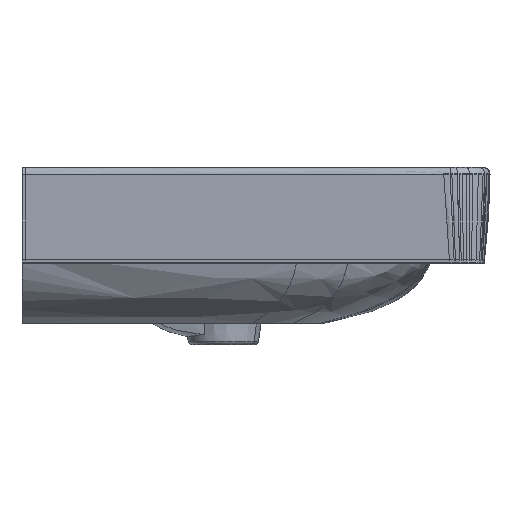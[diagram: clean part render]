
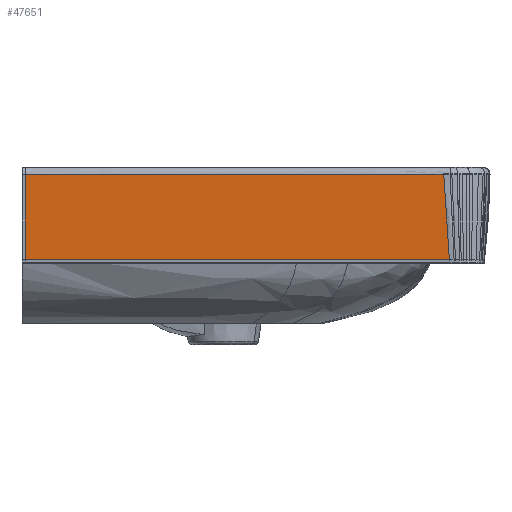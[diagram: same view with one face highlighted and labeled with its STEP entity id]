
A CAD part, left-side view. The second image highlights one B-rep face of the part: STEP entity #47651.
In plain terms, the highlighted free-form (B-spline) face has degree [5, 1] with [6, 2] control points.
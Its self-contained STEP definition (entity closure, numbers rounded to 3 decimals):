
#45217=CARTESIAN_POINT('Vertex',(-299.969,-3.033,-6.991)) ;
#45276=CARTESIAN_POINT('Vertex',(-294.652,-3.033,-91.423)) ;
#45280=CARTESIAN_POINT('Control Point',(-294.652,-3.033,-91.423)) ;
#45281=CARTESIAN_POINT('Control Point',(-295.155,-3.033,-87.137)) ;
#45282=CARTESIAN_POINT('Control Point',(-295.629,-3.033,-82.847)) ;
#45283=CARTESIAN_POINT('Control Point',(-296.073,-3.033,-78.554)) ;
#45284=CARTESIAN_POINT('Control Point',(-296.695,-3.033,-72.109)) ;
#45285=CARTESIAN_POINT('Control Point',(-297.251,-3.033,-65.659)) ;
#45286=CARTESIAN_POINT('Control Point',(-297.428,-3.033,-63.508)) ;
#45287=CARTESIAN_POINT('Control Point',(-297.769,-3.033,-59.206)) ;
#45288=CARTESIAN_POINT('Control Point',(-298.08,-3.033,-54.901)) ;
#45289=CARTESIAN_POINT('Control Point',(-298.228,-3.033,-52.75)) ;
#45290=CARTESIAN_POINT('Control Point',(-298.932,-3.033,-41.976)) ;
#45291=CARTESIAN_POINT('Control Point',(-299.448,-3.033,-31.246)) ;
#45292=CARTESIAN_POINT('Control Point',(-299.705,-3.033,-23.291)) ;
#45293=CARTESIAN_POINT('Control Point',(-299.892,-3.033,-15.621)) ;
#45294=CARTESIAN_POINT('Control Point',(-299.969,-3.033,-6.991)) ;
#47581=CARTESIAN_POINT('Vertex',(-299.969,-419.051,-6.991)) ;
#47607=CARTESIAN_POINT('Control Point',(-299.969,-419.051,-6.991)) ;
#47608=CARTESIAN_POINT('Control Point',(-299.969,-3.033,-6.991)) ;
#47620=CARTESIAN_POINT('Control Point',(-299.969,-3.033,-6.991)) ;
#47621=CARTESIAN_POINT('Control Point',(-299.969,-424.583,-6.991)) ;
#47622=CARTESIAN_POINT('Control Point',(-299.818,-3.033,-23.918)) ;
#47623=CARTESIAN_POINT('Control Point',(-299.818,-424.583,-23.918)) ;
#47624=CARTESIAN_POINT('Control Point',(-299.21,-3.033,-40.84)) ;
#47625=CARTESIAN_POINT('Control Point',(-299.21,-424.583,-40.84)) ;
#47626=CARTESIAN_POINT('Control Point',(-298.146,-3.033,-57.743)) ;
#47627=CARTESIAN_POINT('Control Point',(-298.146,-424.583,-57.743)) ;
#47628=CARTESIAN_POINT('Control Point',(-296.626,-3.033,-74.609)) ;
#47629=CARTESIAN_POINT('Control Point',(-296.626,-424.583,-74.609)) ;
#47630=CARTESIAN_POINT('Control Point',(-294.652,-3.033,-91.423)) ;
#47631=CARTESIAN_POINT('Control Point',(-294.652,-424.583,-91.423)) ;
#47633=CARTESIAN_POINT('Control Point',(-299.969,-419.051,-6.991)) ;
#47634=CARTESIAN_POINT('Control Point',(-299.78,-419.248,-28.204)) ;
#47635=CARTESIAN_POINT('Control Point',(-298.825,-420.241,-49.403)) ;
#47636=CARTESIAN_POINT('Control Point',(-297.108,-422.028,-70.502)) ;
#47637=CARTESIAN_POINT('Control Point',(-294.652,-424.583,-91.423)) ;
#47638=CARTESIAN_POINT('Vertex',(-294.652,-424.583,-91.423)) ;
#47642=CARTESIAN_POINT('Control Point',(-294.652,-424.583,-91.423)) ;
#47643=CARTESIAN_POINT('Control Point',(-294.652,-3.033,-91.423)) ;
#47646=ORIENTED_EDGE('',*,*,#47640,.F.) ;
#47647=ORIENTED_EDGE('',*,*,#47609,.F.) ;
#47648=ORIENTED_EDGE('',*,*,#45295,.F.) ;
#47649=ORIENTED_EDGE('',*,*,#47644,.F.) ;
#47651=ADVANCED_FACE('Hauptk\X2\00F6\X0\rper',(#47650),#47619,.T.) ;
#45279=B_SPLINE_CURVE_WITH_KNOTS('',5,(#45280,#45281,#45282,#45283,#45284,#45285,#45286,#45287,#45288,#45289,#45290,#45291,#45292,#45293,#45294),.UNSPECIFIED.,.F.,.U.,(6,3,3,3,6),(0.,21.793,32.689,43.585,87.171),.UNSPECIFIED.) ;
#47606=B_SPLINE_CURVE_WITH_KNOTS('',1,(#47607,#47608),.UNSPECIFIED.,.F.,.U.,(2,2),(6.135,417.68),.UNSPECIFIED.) ;
#47632=B_SPLINE_CURVE_WITH_KNOTS('',4,(#47633,#47634,#47635,#47636,#47637),.UNSPECIFIED.,.F.,.U.,(5,5),(0.,120.615),.UNSPECIFIED.) ;
#47641=B_SPLINE_CURVE_WITH_KNOTS('',1,(#47642,#47643),.UNSPECIFIED.,.F.,.U.,(2,2),(6.221,423.239),.UNSPECIFIED.) ;
#47619=B_SPLINE_SURFACE_WITH_KNOTS('',5,1,((#47620,#47621),(#47622,#47623),(#47624,#47625),(#47626,#47627),(#47628,#47629),(#47630,#47631)),.UNSPECIFIED.,.F.,.F.,.U.,(6,6),(2,2),(1263.699,1349.19),(-212.889,204.128),.UNSPECIFIED.) ;
#45295=EDGE_CURVE('',#45277,#45218,#45279,.T.) ;
#47609=EDGE_CURVE('',#45218,#47582,#47606,.F.) ;
#47640=EDGE_CURVE('',#47582,#47639,#47632,.T.) ;
#47644=EDGE_CURVE('',#47639,#45277,#47641,.T.) ;
#47645=EDGE_LOOP('',(#47646,#47647,#47648,#47649)) ;
#47650=FACE_OUTER_BOUND('',#47645,.T.) ;
#45218=VERTEX_POINT('',#45217) ;
#45277=VERTEX_POINT('',#45276) ;
#47582=VERTEX_POINT('',#47581) ;
#47639=VERTEX_POINT('',#47638) ;
